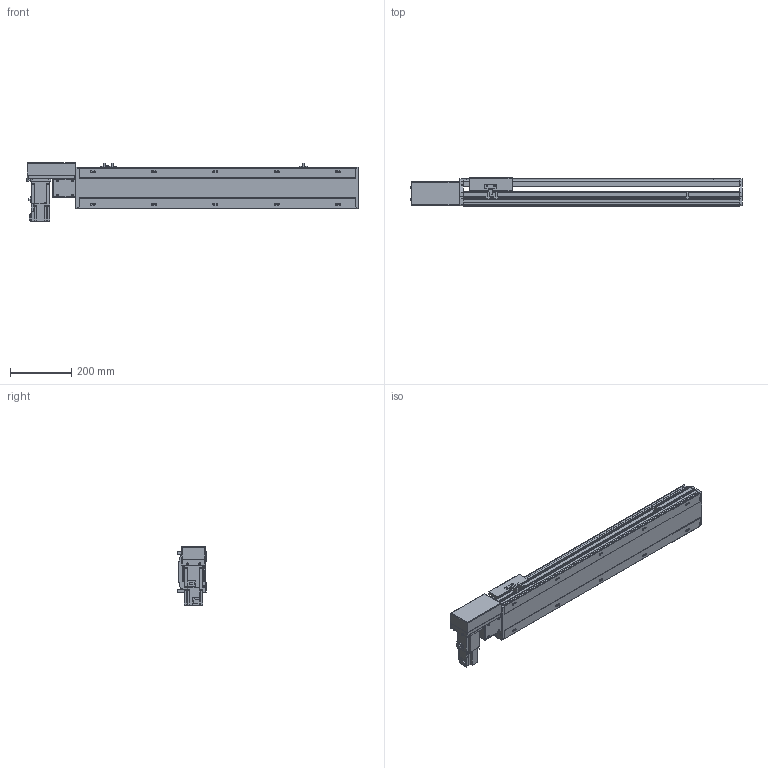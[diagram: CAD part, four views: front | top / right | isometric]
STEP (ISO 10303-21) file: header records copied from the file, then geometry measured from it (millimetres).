
FILE_DESCRIPTION(/* description */ ('STEP AP214'),/* implementation_level */ '2;1');
FILE_NAME(/* name */ 'PBS140S-P40-S650-R-T40-C1-N(0)',/* time_stamp */ '2022-06-09T02:14:11+02:00',/* author */ ('License CC BY-ND 4.0'),/* organization */ ('CADENAS'),/* preprocessor_version */ 'ST-DEVELOPER v18.102',/* originating_system */ 'PARTsolutions',/* authorisation */ ' ');
FILE_SCHEMA (('AUTOMOTIVE_DESIGN {1 0 10303 214 3 1 1}'));
Length unit declared in the file: millimetre
Products named in the file (7): PBS140S-P40-S650-R-T40-C1-N(0); PBS140S_sensor; PBS140S_plant; PBS140S_sliser; T40-p1; PBS140ST-R_motors; PBS140S-S650()_body
Assembly tree (8 placements, depth 2):
  PBS140S-P40-S650-R-T40-C1-N(0)
    PBS140S_sensor  x3
    PBS140S_plant
    PBS140S_sliser
    T40-p1
    PBS140ST-R_motors
    PBS140S-S650()_body
Bounding box: 1083 x 93 x 189.7 mm (x, y, z)
Volume: 5447152.4 mm3; surface area: 957678.8 mm2
Topology: 8 solids, 8 shells, 1051 faces, 2791 edges, 1827 vertices
Faces by surface type: plane 684, cylinder 321, cone 36, sphere 8, torus 2
Full cylindrical faces by diameter (mm): 3.242 x4, 4 x2, 4.134 x4, 4.4 x8, 4.5 x2, 4.8 x4, 4.917 x18, 5.5 x7, 6 x2, 7 x12, 7.5 x8, 8 x12, 8.5 x4, 10.5 x10, 14 x1, 30 x2, 50 x2
Entity records: 30122 total; most frequent: CARTESIAN_POINT 5480, DIRECTION 5138, ORIENTED_EDGE 4882, EDGE_CURVE 2441, AXIS2_PLACEMENT_3D 1769, VERTEX_POINT 1681, LINE 1600, VECTOR 1600
